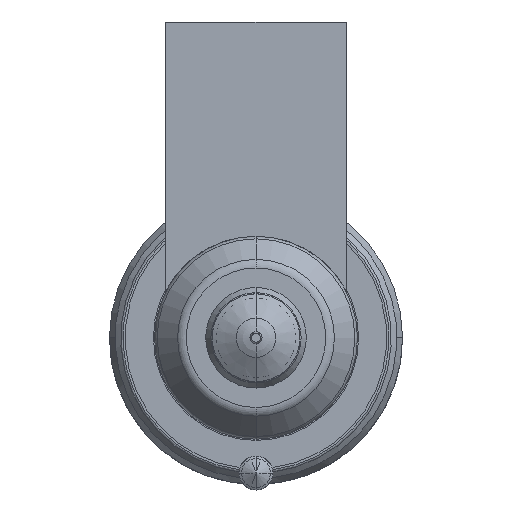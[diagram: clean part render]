
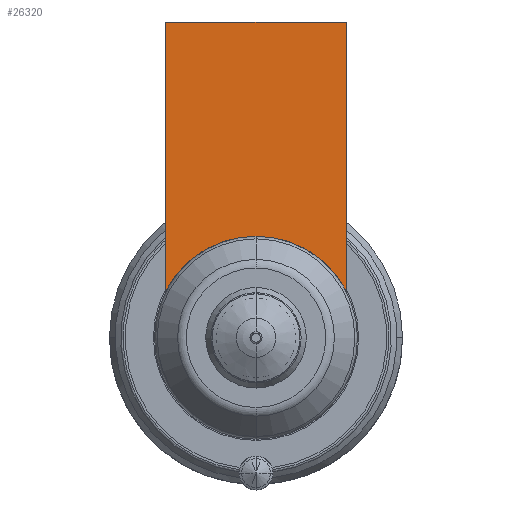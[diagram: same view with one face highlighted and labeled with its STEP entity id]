
A CAD part, front view. The second image highlights one B-rep face of the part: STEP entity #26320.
In plain terms, the highlighted planar face has unit normal (0, -1, 0).
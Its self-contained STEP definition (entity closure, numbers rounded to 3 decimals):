
#25437=DIRECTION('',(1.,0.,0.));
#25438=VECTOR('',#25437,16.);
#25439=CARTESIAN_POINT('',(-8.,-54.,28.));
#25440=LINE('',#25439,#25438);
#25445=CARTESIAN_POINT('',(0.,-54.,0.));
#25446=DIRECTION('',(0.,-1.,0.));
#25447=DIRECTION('',(0.889,0.,0.458));
#25448=AXIS2_PLACEMENT_3D('',#25445,#25446,#25447);
#25453=CARTESIAN_POINT('',(0.,-54.,0.));
#25454=DIRECTION('',(0.,-1.,0.));
#25455=DIRECTION('',(0.,0.,1.));
#25456=AXIS2_PLACEMENT_3D('',#25453,#25454,#25455);
#25482=DIRECTION('',(0.,0.,-1.));
#25483=VECTOR('',#25482,23.877);
#25484=CARTESIAN_POINT('',(-8.,-54.,28.));
#25485=LINE('',#25484,#25483);
#26164=DIRECTION('',(0.,0.,-1.));
#26165=VECTOR('',#26164,23.877);
#26166=CARTESIAN_POINT('',(8.,-54.,28.));
#26167=LINE('',#26166,#26165);
#26217=CARTESIAN_POINT('',(-8.,-54.,28.));
#26218=VERTEX_POINT('',#26217);
#26223=CARTESIAN_POINT('',(8.,-54.,28.));
#26224=VERTEX_POINT('',#26223);
#26227=CARTESIAN_POINT('',(-8.,-54.,4.123));
#26228=VERTEX_POINT('',#26227);
#26231=CARTESIAN_POINT('',(8.,-54.,4.123));
#26232=VERTEX_POINT('',#26231);
#26301=CARTESIAN_POINT('',(0.,-54.,9.));
#26302=VERTEX_POINT('',#26301);
#26303=CARTESIAN_POINT('',(0.,-54.,9.));
#26304=DIRECTION('',(0.,1.,0.));
#26305=DIRECTION('',(0.,0.,-1.));
#26306=AXIS2_PLACEMENT_3D('',#26303,#26304,#26305);
#26307=PLANE('',#26306);
#26309=ORIENTED_EDGE('',*,*,#26308,.F.);
#26311=ORIENTED_EDGE('',*,*,#26310,.T.);
#26313=ORIENTED_EDGE('',*,*,#26312,.T.);
#26315=ORIENTED_EDGE('',*,*,#26314,.T.);
#26317=ORIENTED_EDGE('',*,*,#26316,.T.);
#26318=EDGE_LOOP('',(#26309,#26311,#26313,#26315,#26317));
#26319=FACE_OUTER_BOUND('',#26318,.F.);
#26320=ADVANCED_FACE('',(#26319),#26307,.F.);
#25449=CIRCLE('',#25448,9.);
#25457=CIRCLE('',#25456,9.);
#26308=EDGE_CURVE('',#26218,#26228,#25485,.T.);
#26310=EDGE_CURVE('',#26218,#26224,#25440,.T.);
#26312=EDGE_CURVE('',#26224,#26232,#26167,.T.);
#26314=EDGE_CURVE('',#26232,#26302,#25449,.T.);
#26316=EDGE_CURVE('',#26302,#26228,#25457,.T.);
